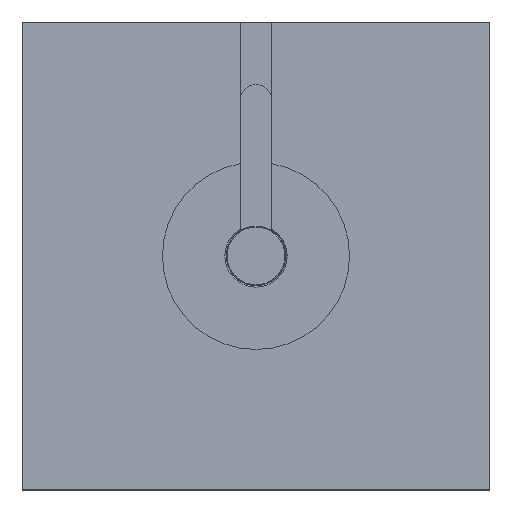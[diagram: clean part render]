
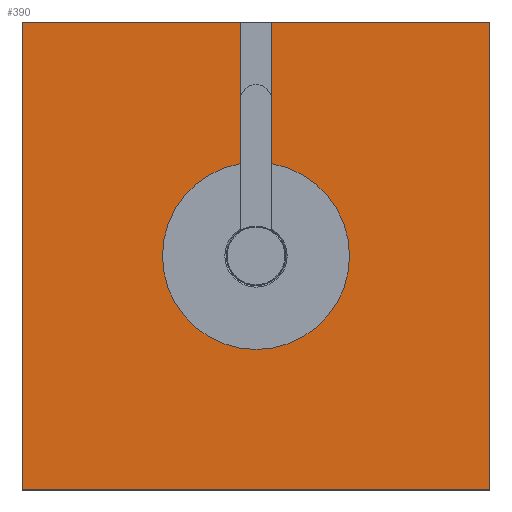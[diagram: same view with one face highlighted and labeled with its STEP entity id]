
A CAD part, top view. The second image highlights one B-rep face of the part: STEP entity #390.
In plain terms, the highlighted planar face has unit normal (0, 0, 1).
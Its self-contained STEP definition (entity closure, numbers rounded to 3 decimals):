
#390 = ADVANCED_FACE( '', ( #803 ), #804, .T. );
#803 = FACE_OUTER_BOUND( '', #1249, .T. );
#804 = PLANE( '', #1250 );
#1249 = EDGE_LOOP( '', ( #2226, #2227, #2228, #2229, #2230, #2231, #2232, #2233 ) );
#1250 = AXIS2_PLACEMENT_3D( '', #2234, #2235, #2236 );
#2226 = ORIENTED_EDGE( '', *, *, #2514, .T. );
#2227 = ORIENTED_EDGE( '', *, *, #2606, .T. );
#2228 = ORIENTED_EDGE( '', *, *, #2349, .T. );
#2229 = ORIENTED_EDGE( '', *, *, #2420, .T. );
#2230 = ORIENTED_EDGE( '', *, *, #2634, .T. );
#2231 = ORIENTED_EDGE( '', *, *, #2628, .T. );
#2232 = ORIENTED_EDGE( '', *, *, #2352, .T. );
#2233 = ORIENTED_EDGE( '', *, *, #2281, .T. );
#2234 = CARTESIAN_POINT( '', ( -150., -150., 0. ) );
#2235 = DIRECTION( '', ( 0., 0., 1. ) );
#2236 = DIRECTION( '', ( 0., -1., 0. ) );
#2281 = EDGE_CURVE( '', #2686, #2684, #2687, .T. );
#2349 = EDGE_CURVE( '', #2802, #2803, #2804, .T. );
#2352 = EDGE_CURVE( '', #2808, #2686, #2809, .T. );
#2420 = EDGE_CURVE( '', #2803, #2927, #2928, .T. );
#2514 = EDGE_CURVE( '', #2684, #3061, #3062, .T. );
#2606 = EDGE_CURVE( '', #3061, #2802, #3184, .T. );
#2628 = EDGE_CURVE( '', #3207, #2808, #3208, .T. );
#2634 = EDGE_CURVE( '', #2927, #3207, #3214, .T. );
#2684 = VERTEX_POINT( '', #3278 );
#2686 = VERTEX_POINT( '', #3281 );
#2687 = LINE( '', #3282, #3283 );
#2802 = VERTEX_POINT( '', #3457 );
#2803 = VERTEX_POINT( '', #3458 );
#2804 = LINE( '', #3459, #3460 );
#2808 = VERTEX_POINT( '', #3466 );
#2809 = LINE( '', #3467, #3468 );
#2927 = VERTEX_POINT( '', #3668 );
#2928 = LINE( '', #3669, #3670 );
#3061 = VERTEX_POINT( '', #3888 );
#3062 = CIRCLE( '', #3889, 60. );
#3184 = LINE( '', #4051, #4052 );
#3207 = VERTEX_POINT( '', #4082 );
#3208 = LINE( '', #4083, #4084 );
#3214 = LINE( '', #4091, #4092 );
#3278 = CARTESIAN_POINT( '', ( 10., 59.161, 0. ) );
#3281 = CARTESIAN_POINT( '', ( 10., 150., 0. ) );
#3282 = CARTESIAN_POINT( '', ( 10., 150., 0. ) );
#3283 = VECTOR( '', #4131, 1000. );
#3457 = CARTESIAN_POINT( '', ( -10., 150., 0. ) );
#3458 = CARTESIAN_POINT( '', ( -150., 150., 0. ) );
#3459 = CARTESIAN_POINT( '', ( 150., 150., 0. ) );
#3460 = VECTOR( '', #4210, 1000. );
#3466 = CARTESIAN_POINT( '', ( 150., 150., 0. ) );
#3467 = CARTESIAN_POINT( '', ( 150., 150., 0. ) );
#3468 = VECTOR( '', #4213, 1000. );
#3668 = CARTESIAN_POINT( '', ( -150., -150., 0. ) );
#3669 = CARTESIAN_POINT( '', ( -150., 150., 0. ) );
#3670 = VECTOR( '', #4311, 1000. );
#3888 = CARTESIAN_POINT( '', ( -10., 59.161, 0. ) );
#3889 = AXIS2_PLACEMENT_3D( '', #4413, #4414, #4415 );
#4051 = CARTESIAN_POINT( '', ( -10., 0., 0. ) );
#4052 = VECTOR( '', #4514, 1000. );
#4082 = CARTESIAN_POINT( '', ( 150., -150., 0. ) );
#4083 = CARTESIAN_POINT( '', ( 150., -150., 0. ) );
#4084 = VECTOR( '', #4531, 1000. );
#4091 = CARTESIAN_POINT( '', ( -150., -150., 0. ) );
#4092 = VECTOR( '', #4533, 1000. );
#4131 = DIRECTION( '', ( 0., -1., 0. ) );
#4210 = DIRECTION( '', ( -1., 0., 0. ) );
#4213 = DIRECTION( '', ( -1., 0., 0. ) );
#4311 = DIRECTION( '', ( 0., -1., 0. ) );
#4413 = CARTESIAN_POINT( '', ( 0., 0., 0. ) );
#4414 = DIRECTION( '', ( 0., 0., -1. ) );
#4415 = DIRECTION( '', ( -1., 0., 0. ) );
#4514 = DIRECTION( '', ( 0., 1., 0. ) );
#4531 = DIRECTION( '', ( 0., 1., 0. ) );
#4533 = DIRECTION( '', ( 1., 0., 0. ) );
